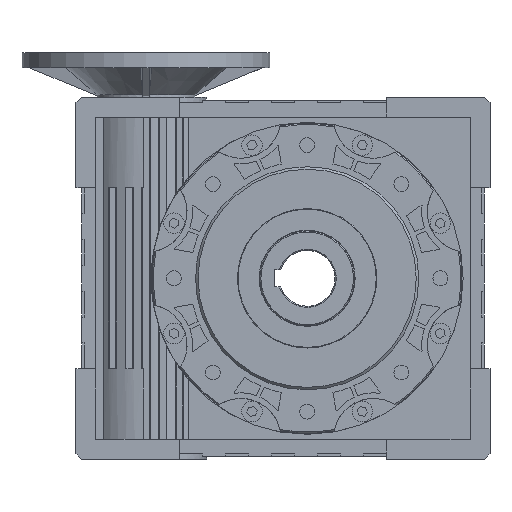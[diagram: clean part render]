
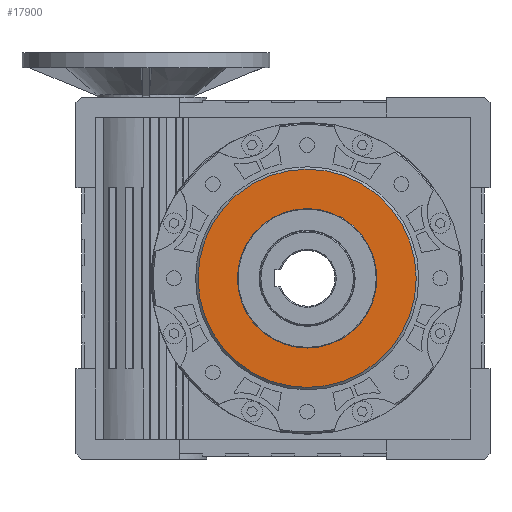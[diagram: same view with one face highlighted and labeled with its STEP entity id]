
A CAD part, left-side view. The second image highlights one B-rep face of the part: STEP entity #17900.
In plain terms, the highlighted planar face has unit normal (-1, 0, 0).
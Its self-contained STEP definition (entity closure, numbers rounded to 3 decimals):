
#495=FACE_BOUND('',#5461,.T.);
#4438=FACE_OUTER_BOUND('',#5460,.T.);
#5460=EDGE_LOOP('',(#12368));
#5461=EDGE_LOOP('',(#12369));
#6300=CIRCLE('',#18661,56.25);
#6532=CIRCLE('',#19145,88.);
#6921=VERTEX_POINT('',#25309);
#7412=VERTEX_POINT('',#26932);
#8589=EDGE_CURVE('',#6921,#6921,#6300,.T.);
#9284=EDGE_CURVE('',#7412,#7412,#6532,.T.);
#12368=ORIENTED_EDGE('',*,*,#9284,.T.);
#12369=ORIENTED_EDGE('',*,*,#8589,.T.);
#16158=PLANE('',#19144);
#17900=ADVANCED_FACE('',(#4438,#495),#16158,.F.);
#18661=AXIS2_PLACEMENT_3D('',#25311,#20324,#20325);
#19144=AXIS2_PLACEMENT_3D('',#26931,#21717,#21718);
#19145=AXIS2_PLACEMENT_3D('',#26933,#21719,#21720);
#20324=DIRECTION('center_axis',(1.,0.,0.));
#20325=DIRECTION('ref_axis',(0.,0.,-1.));
#21717=DIRECTION('center_axis',(1.,0.,0.));
#21718=DIRECTION('ref_axis',(0.,1.,0.));
#21719=DIRECTION('center_axis',(-1.,0.,0.));
#21720=DIRECTION('ref_axis',(0.,-1.,0.));
#25309=CARTESIAN_POINT('',(153.595,701.832,115.546));
#25311=CARTESIAN_POINT('Origin',(153.595,701.832,59.296));
#26931=CARTESIAN_POINT('Origin',(153.595,789.832,59.296));
#26932=CARTESIAN_POINT('',(153.595,613.832,59.296));
#26933=CARTESIAN_POINT('Origin',(153.595,701.832,59.296));
